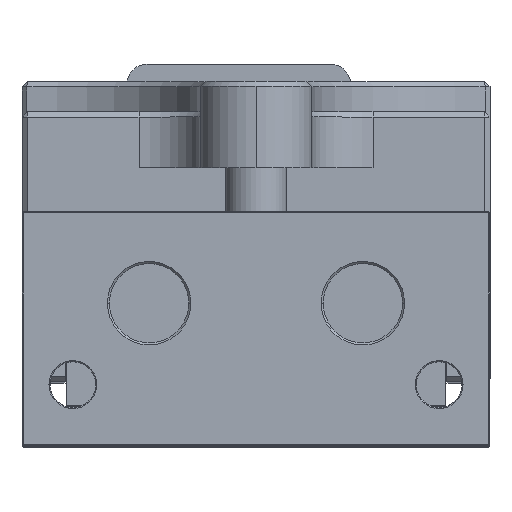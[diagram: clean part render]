
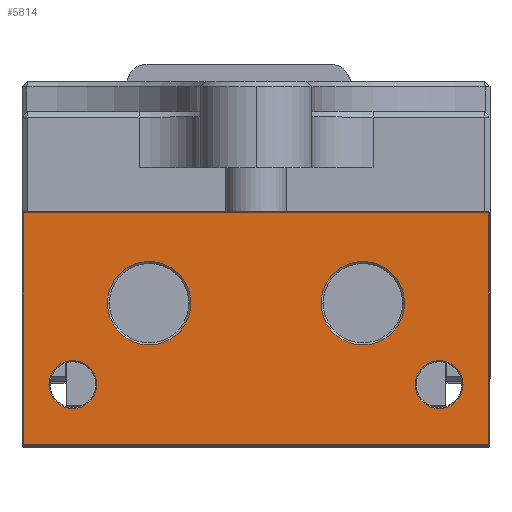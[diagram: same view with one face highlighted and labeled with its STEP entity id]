
A CAD part, top view. The second image highlights one B-rep face of the part: STEP entity #5814.
In plain terms, the highlighted planar face has unit normal (0, 0, 1).
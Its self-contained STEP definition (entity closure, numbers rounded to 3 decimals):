
#356 = CIRCLE ( 'NONE', #5505, 2.35 ) ;
#394 = EDGE_LOOP ( 'NONE', ( #23446, #6200 ) ) ;
#984 = CARTESIAN_POINT ( 'NONE',  ( -22.9, 0.1, 120. ) ) ;
#1090 = EDGE_CURVE ( 'NONE', #21598, #1958, #7536, .T. ) ;
#1586 = CARTESIAN_POINT ( 'NONE',  ( 15.65, 6., 120. ) ) ;
#1675 = LINE ( 'NONE', #9824, #14674 ) ;
#1789 = CARTESIAN_POINT ( 'NONE',  ( 18., 6., 120. ) ) ;
#1958 = VERTEX_POINT ( 'NONE', #9887 ) ;
#2073 = DIRECTION ( 'NONE',  ( 0., 0., -1. ) ) ;
#2617 = ORIENTED_EDGE ( 'NONE', *, *, #17958, .T. ) ;
#2686 = FACE_BOUND ( 'NONE', #3191, .T. ) ;
#3040 = VERTEX_POINT ( 'NONE', #4802 ) ;
#3185 = ORIENTED_EDGE ( 'NONE', *, *, #23094, .T. ) ;
#3191 = EDGE_LOOP ( 'NONE', ( #7525, #24282 ) ) ;
#3423 = DIRECTION ( 'NONE',  ( -1., 0., 0. ) ) ;
#3514 = CARTESIAN_POINT ( 'NONE',  ( 10.5, 14., 120. ) ) ;
#3623 = DIRECTION ( 'NONE',  ( 0., 0., -1. ) ) ;
#3847 = CARTESIAN_POINT ( 'NONE',  ( -14.6, 14., 120. ) ) ;
#4227 = CARTESIAN_POINT ( 'NONE',  ( -23., 0., 120. ) ) ;
#4399 = DIRECTION ( 'NONE',  ( 0., 0., -1. ) ) ;
#4437 = DIRECTION ( 'NONE',  ( -1., 0., 0. ) ) ;
#4802 = CARTESIAN_POINT ( 'NONE',  ( 22.9, 22.9, 120. ) ) ;
#4880 = EDGE_CURVE ( 'NONE', #26806, #5863, #28274, .T. ) ;
#5505 = AXIS2_PLACEMENT_3D ( 'NONE', #17635, #2073, #20179 ) ;
#5814 = ADVANCED_FACE ( 'NONE', ( #2686, #22398, #17301, #28979, #29788 ), #6633, .F. ) ;
#5863 = VERTEX_POINT ( 'NONE', #20630 ) ;
#5923 = DIRECTION ( 'NONE',  ( 0., 0., -1. ) ) ;
#5954 = AXIS2_PLACEMENT_3D ( 'NONE', #24020, #4399, #21728 ) ;
#6034 = VERTEX_POINT ( 'NONE', #23943 ) ;
#6200 = ORIENTED_EDGE ( 'NONE', *, *, #16498, .T. ) ;
#6344 = CARTESIAN_POINT ( 'NONE',  ( 10.5, 14., 120. ) ) ;
#6514 = CARTESIAN_POINT ( 'NONE',  ( -6.4, 14., 120. ) ) ;
#6633 = PLANE ( 'NONE',  #20247 ) ;
#6741 = DIRECTION ( 'NONE',  ( -1., 0., 0. ) ) ;
#7168 = DIRECTION ( 'NONE',  ( 0., 0., -1. ) ) ;
#7525 = ORIENTED_EDGE ( 'NONE', *, *, #4880, .T. ) ;
#7536 = CIRCLE ( 'NONE', #5954, 2.35 ) ;
#8008 = CARTESIAN_POINT ( 'NONE',  ( 23., 0.1, 120. ) ) ;
#8557 = ORIENTED_EDGE ( 'NONE', *, *, #9533, .T. ) ;
#8945 = DIRECTION ( 'NONE',  ( -1., 0., 0. ) ) ;
#8995 = EDGE_LOOP ( 'NONE', ( #8557, #23028, #9357, #2617 ) ) ;
#9357 = ORIENTED_EDGE ( 'NONE', *, *, #27951, .T. ) ;
#9533 = EDGE_CURVE ( 'NONE', #3040, #17016, #1675, .T. ) ;
#9658 = CARTESIAN_POINT ( 'NONE',  ( -22.9, 0., 120. ) ) ;
#9824 = CARTESIAN_POINT ( 'NONE',  ( -23., 22.9, 120. ) ) ;
#9886 = CARTESIAN_POINT ( 'NONE',  ( 14.6, 14., 120. ) ) ;
#9887 = CARTESIAN_POINT ( 'NONE',  ( -15.65, 6., 120. ) ) ;
#10264 = DIRECTION ( 'NONE',  ( 0., 1., 0. ) ) ;
#10857 = EDGE_LOOP ( 'NONE', ( #24965, #24510 ) ) ;
#11253 = VERTEX_POINT ( 'NONE', #6514 ) ;
#11743 = CARTESIAN_POINT ( 'NONE',  ( 22.9, 0.1, 120. ) ) ;
#12744 = LINE ( 'NONE', #9658, #19592 ) ;
#13584 = AXIS2_PLACEMENT_3D ( 'NONE', #22511, #7168, #24996 ) ;
#13852 = EDGE_LOOP ( 'NONE', ( #3185, #18495 ) ) ;
#14674 = VECTOR ( 'NONE', #14818, 1000. ) ;
#14743 = DIRECTION ( 'NONE',  ( 0., -1., 0. ) ) ;
#14818 = DIRECTION ( 'NONE',  ( -1., 0., 0. ) ) ;
#14825 = CARTESIAN_POINT ( 'NONE',  ( -10.5, 14., 120. ) ) ;
#14868 = CARTESIAN_POINT ( 'NONE',  ( -20.35, 6., 120. ) ) ;
#15210 = DIRECTION ( 'NONE',  ( -1., 0., 0. ) ) ;
#15268 = DIRECTION ( 'NONE',  ( 0., 0., -1. ) ) ;
#15340 = CARTESIAN_POINT ( 'NONE',  ( 18., 6., 120. ) ) ;
#16498 = EDGE_CURVE ( 'NONE', #19894, #6034, #26241, .T. ) ;
#16903 = CIRCLE ( 'NONE', #13584, 4.1 ) ;
#17016 = VERTEX_POINT ( 'NONE', #19480 ) ;
#17301 = FACE_BOUND ( 'NONE', #13852, .T. ) ;
#17438 = DIRECTION ( 'NONE',  ( -1., 0., 0. ) ) ;
#17635 = CARTESIAN_POINT ( 'NONE',  ( -18., 6., 120. ) ) ;
#17958 = EDGE_CURVE ( 'NONE', #24595, #3040, #20477, .T. ) ;
#17984 = VECTOR ( 'NONE', #25827, 1000. ) ;
#18495 = ORIENTED_EDGE ( 'NONE', *, *, #1090, .T. ) ;
#18636 = AXIS2_PLACEMENT_3D ( 'NONE', #6344, #24200, #8945 ) ;
#18936 = AXIS2_PLACEMENT_3D ( 'NONE', #3514, #3623, #3423 ) ;
#19469 = AXIS2_PLACEMENT_3D ( 'NONE', #14825, #32385, #17438 ) ;
#19480 = CARTESIAN_POINT ( 'NONE',  ( -22.9, 22.9, 120. ) ) ;
#19592 = VECTOR ( 'NONE', #14743, 1000. ) ;
#19677 = VECTOR ( 'NONE', #10264, 1000. ) ;
#19894 = VERTEX_POINT ( 'NONE', #1586 ) ;
#19898 = DIRECTION ( 'NONE',  ( 0., 0., -1. ) ) ;
#19925 = EDGE_CURVE ( 'NONE', #17016, #24478, #12744, .T. ) ;
#20179 = DIRECTION ( 'NONE',  ( -1., 0., 0. ) ) ;
#20247 = AXIS2_PLACEMENT_3D ( 'NONE', #4227, #5923, #6741 ) ;
#20289 = EDGE_CURVE ( 'NONE', #5863, #26806, #29251, .T. ) ;
#20477 = LINE ( 'NONE', #22983, #19677 ) ;
#20630 = CARTESIAN_POINT ( 'NONE',  ( 6.4, 14., 120. ) ) ;
#21598 = VERTEX_POINT ( 'NONE', #14868 ) ;
#21728 = DIRECTION ( 'NONE',  ( -1., 0., 0. ) ) ;
#21862 = AXIS2_PLACEMENT_3D ( 'NONE', #15340, #15268, #15210 ) ;
#22292 = AXIS2_PLACEMENT_3D ( 'NONE', #1789, #19898, #4437 ) ;
#22398 = FACE_BOUND ( 'NONE', #10857, .T. ) ;
#22511 = CARTESIAN_POINT ( 'NONE',  ( -10.5, 14., 120. ) ) ;
#22983 = CARTESIAN_POINT ( 'NONE',  ( 22.9, 23., 120. ) ) ;
#23028 = ORIENTED_EDGE ( 'NONE', *, *, #19925, .T. ) ;
#23094 = EDGE_CURVE ( 'NONE', #1958, #21598, #356, .T. ) ;
#23446 = ORIENTED_EDGE ( 'NONE', *, *, #30138, .T. ) ;
#23943 = CARTESIAN_POINT ( 'NONE',  ( 20.35, 6., 120. ) ) ;
#24020 = CARTESIAN_POINT ( 'NONE',  ( -18., 6., 120. ) ) ;
#24200 = DIRECTION ( 'NONE',  ( 0., 0., -1. ) ) ;
#24282 = ORIENTED_EDGE ( 'NONE', *, *, #20289, .T. ) ;
#24478 = VERTEX_POINT ( 'NONE', #984 ) ;
#24510 = ORIENTED_EDGE ( 'NONE', *, *, #31989, .T. ) ;
#24595 = VERTEX_POINT ( 'NONE', #11743 ) ;
#24965 = ORIENTED_EDGE ( 'NONE', *, *, #25230, .T. ) ;
#24996 = DIRECTION ( 'NONE',  ( -1., 0., 0. ) ) ;
#25230 = EDGE_CURVE ( 'NONE', #11253, #27253, #16903, .T. ) ;
#25827 = DIRECTION ( 'NONE',  ( 1., 0., 0. ) ) ;
#26241 = CIRCLE ( 'NONE', #21862, 2.35 ) ;
#26760 = CIRCLE ( 'NONE', #22292, 2.35 ) ;
#26806 = VERTEX_POINT ( 'NONE', #9886 ) ;
#27253 = VERTEX_POINT ( 'NONE', #3847 ) ;
#27951 = EDGE_CURVE ( 'NONE', #24478, #24595, #32005, .T. ) ;
#28274 = CIRCLE ( 'NONE', #18936, 4.1 ) ;
#28979 = FACE_BOUND ( 'NONE', #394, .T. ) ;
#29251 = CIRCLE ( 'NONE', #18636, 4.1 ) ;
#29788 = FACE_OUTER_BOUND ( 'NONE', #8995, .T. ) ;
#30138 = EDGE_CURVE ( 'NONE', #6034, #19894, #26760, .T. ) ;
#31338 = CIRCLE ( 'NONE', #19469, 4.1 ) ;
#31989 = EDGE_CURVE ( 'NONE', #27253, #11253, #31338, .T. ) ;
#32005 = LINE ( 'NONE', #8008, #17984 ) ;
#32385 = DIRECTION ( 'NONE',  ( 0., 0., -1. ) ) ;
